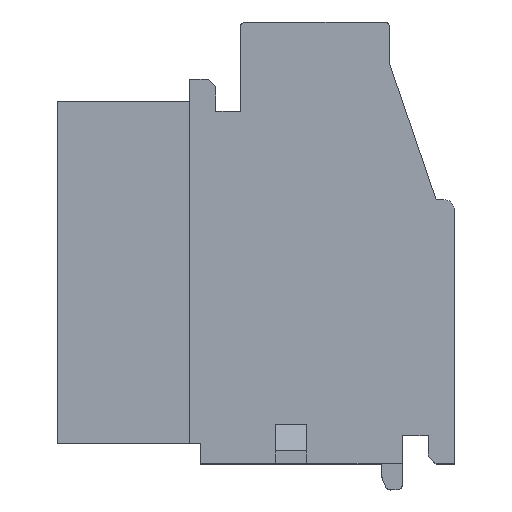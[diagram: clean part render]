
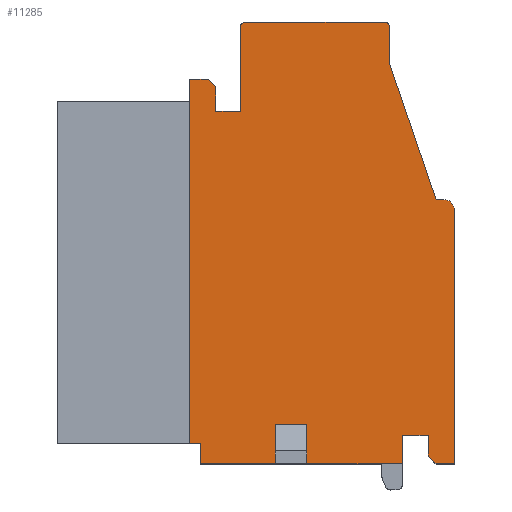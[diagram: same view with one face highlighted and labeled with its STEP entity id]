
A CAD part, top view. The second image highlights one B-rep face of the part: STEP entity #11285.
In plain terms, the highlighted planar face has unit normal (0, 0, 1).
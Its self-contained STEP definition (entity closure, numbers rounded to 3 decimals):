
#2=DIRECTION('',(0.,-1.,0.));
#3=VECTOR('',#2,1.5);
#4=CARTESIAN_POINT('',(4.1,1.5,5.));
#5=LINE('',#4,#3);
#6=DIRECTION('',(1.,0.,0.));
#7=VECTOR('',#6,2.9);
#8=CARTESIAN_POINT('',(0.,0.,5.));
#9=LINE('',#8,#7);
#14=DIRECTION('',(1.,0.,0.));
#15=VECTOR('',#14,3.7);
#16=CARTESIAN_POINT('',(4.1,0.,5.));
#17=LINE('',#16,#15);
#94=DIRECTION('',(0.,1.,0.));
#95=VECTOR('',#94,0.8);
#96=CARTESIAN_POINT('',(8.8,0.3,5.));
#97=LINE('',#96,#95);
#110=DIRECTION('',(0.707,-0.707,0.));
#111=VECTOR('',#110,0.424);
#112=CARTESIAN_POINT('',(8.8,0.3,5.));
#113=LINE('',#112,#111);
#126=DIRECTION('',(1.,0.,0.));
#127=VECTOR('',#126,0.7);
#128=CARTESIAN_POINT('',(9.1,0.,5.));
#129=LINE('',#128,#127);
#134=DIRECTION('',(0.,1.,0.));
#135=VECTOR('',#134,9.8);
#136=CARTESIAN_POINT('',(9.8,0.,5.));
#137=LINE('',#136,#135);
#146=CARTESIAN_POINT('',(9.4,9.8,5.));
#147=DIRECTION('',(0.,0.,1.));
#148=DIRECTION('',(1.,0.001,0.));
#149=AXIS2_PLACEMENT_3D('',#146,#147,#148);
#160=DIRECTION('',(-1.,0.,0.));
#161=VECTOR('',#160,0.3);
#162=CARTESIAN_POINT('',(9.4,10.2,5.));
#163=LINE('',#162,#161);
#172=DIRECTION('',(-0.324,0.946,0.));
#173=VECTOR('',#172,5.55);
#174=CARTESIAN_POINT('',(9.1,10.2,5.));
#175=LINE('',#174,#173);
#184=DIRECTION('',(0.,1.,0.));
#185=VECTOR('',#184,1.4);
#186=CARTESIAN_POINT('',(7.3,15.45,5.));
#187=LINE('',#186,#185);
#196=CARTESIAN_POINT('',(7.3,16.85,5.));
#197=CARTESIAN_POINT('',(7.3,16.902,5.));
#198=CARTESIAN_POINT('',(7.257,17.007,5.));
#199=CARTESIAN_POINT('',(7.152,17.05,5.));
#200=CARTESIAN_POINT('',(7.1,17.05,5.));
#212=DIRECTION('',(-1.,0.,0.));
#213=VECTOR('',#212,5.35);
#214=CARTESIAN_POINT('',(7.1,17.05,5.));
#215=LINE('',#214,#213);
#224=CARTESIAN_POINT('',(1.75,17.05,5.));
#225=CARTESIAN_POINT('',(1.698,17.05,5.));
#226=CARTESIAN_POINT('',(1.593,17.007,5.));
#227=CARTESIAN_POINT('',(1.55,16.902,5.));
#228=CARTESIAN_POINT('',(1.55,16.85,5.));
#240=DIRECTION('',(0.,-1.,0.));
#241=VECTOR('',#240,3.25);
#242=CARTESIAN_POINT('',(1.55,16.85,5.));
#243=LINE('',#242,#241);
#252=DIRECTION('',(-1.,0.,0.));
#253=VECTOR('',#252,0.95);
#254=CARTESIAN_POINT('',(1.55,13.6,5.));
#255=LINE('',#254,#253);
#272=DIRECTION('',(0.,1.,0.));
#273=VECTOR('',#272,0.95);
#274=CARTESIAN_POINT('',(0.6,13.6,5.));
#275=LINE('',#274,#273);
#284=DIRECTION('',(-0.707,0.707,0.));
#285=VECTOR('',#284,0.424);
#286=CARTESIAN_POINT('',(0.6,14.55,5.));
#287=LINE('',#286,#285);
#292=DIRECTION('',(-1.,0.,0.));
#293=VECTOR('',#292,0.7);
#294=CARTESIAN_POINT('',(0.3,14.85,5.));
#295=LINE('',#294,#293);
#308=DIRECTION('',(0.,-1.,0.));
#309=VECTOR('',#308,14.05);
#310=CARTESIAN_POINT('',(-0.4,14.85,5.));
#311=LINE('',#310,#309);
#348=DIRECTION('',(1.,0.,0.));
#349=VECTOR('',#348,0.4);
#350=CARTESIAN_POINT('',(-0.4,0.8,5.));
#351=LINE('',#350,#349);
#384=DIRECTION('',(0.,-1.,0.));
#385=VECTOR('',#384,0.8);
#386=CARTESIAN_POINT('',(0.,0.8,5.));
#387=LINE('',#386,#385);
#865=DIRECTION('',(0.,-1.,0.));
#866=VECTOR('',#865,1.1);
#867=CARTESIAN_POINT('',(7.8,1.1,5.));
#868=LINE('',#867,#866);
#869=DIRECTION('',(-1.,0.,0.));
#870=VECTOR('',#869,1.);
#871=CARTESIAN_POINT('',(8.8,1.1,5.));
#872=LINE('',#871,#870);
#9315=DIRECTION('',(0.,-1.,0.));
#9316=VECTOR('',#9315,1.5);
#9317=CARTESIAN_POINT('',(2.9,1.5,5.));
#9318=LINE('',#9317,#9316);
#9323=DIRECTION('',(1.,0.,0.));
#9324=VECTOR('',#9323,1.2);
#9325=CARTESIAN_POINT('',(2.9,1.5,5.));
#9326=LINE('',#9325,#9324);
#9351=VERTEX_POINT('',#196);
#9352=VERTEX_POINT('',#200);
#9353=CARTESIAN_POINT('',(7.3,15.45,5.));
#9354=VERTEX_POINT('',#9353);
#9355=CARTESIAN_POINT('',(9.1,10.2,5.));
#9356=VERTEX_POINT('',#9355);
#9357=CARTESIAN_POINT('',(9.4,10.2,5.));
#9358=VERTEX_POINT('',#9357);
#9359=CARTESIAN_POINT('',(9.8,9.8,5.));
#9360=VERTEX_POINT('',#9359);
#9361=CARTESIAN_POINT('',(9.8,0.,5.));
#9362=VERTEX_POINT('',#9361);
#9363=CARTESIAN_POINT('',(9.1,0.,5.));
#9364=VERTEX_POINT('',#9363);
#9365=CARTESIAN_POINT('',(8.8,0.3,5.));
#9366=VERTEX_POINT('',#9365);
#9367=CARTESIAN_POINT('',(8.8,1.1,5.));
#9368=VERTEX_POINT('',#9367);
#9369=CARTESIAN_POINT('',(7.8,1.1,5.));
#9370=VERTEX_POINT('',#9369);
#9371=CARTESIAN_POINT('',(7.8,0.,5.));
#9372=VERTEX_POINT('',#9371);
#9373=CARTESIAN_POINT('',(4.1,0.,5.));
#9374=VERTEX_POINT('',#9373);
#9375=CARTESIAN_POINT('',(-0.4,14.85,5.));
#9376=CARTESIAN_POINT('',(-0.4,0.8,5.));
#9377=VERTEX_POINT('',#9375);
#9378=VERTEX_POINT('',#9376);
#9379=CARTESIAN_POINT('',(4.1,1.5,5.));
#9380=VERTEX_POINT('',#9379);
#9381=CARTESIAN_POINT('',(2.9,1.5,5.));
#9382=VERTEX_POINT('',#9381);
#9383=CARTESIAN_POINT('',(2.9,0.,5.));
#9384=VERTEX_POINT('',#9383);
#9385=CARTESIAN_POINT('',(0.,0.,5.));
#9386=VERTEX_POINT('',#9385);
#9387=CARTESIAN_POINT('',(0.,0.8,5.));
#9388=VERTEX_POINT('',#9387);
#9389=CARTESIAN_POINT('',(0.3,14.85,5.));
#9390=VERTEX_POINT('',#9389);
#9391=CARTESIAN_POINT('',(0.6,14.55,5.));
#9392=VERTEX_POINT('',#9391);
#9393=CARTESIAN_POINT('',(0.6,13.6,5.));
#9394=VERTEX_POINT('',#9393);
#9395=CARTESIAN_POINT('',(1.55,13.6,5.));
#9396=VERTEX_POINT('',#9395);
#9397=CARTESIAN_POINT('',(1.55,16.85,5.));
#9398=VERTEX_POINT('',#9397);
#9399=VERTEX_POINT('',#224);
#11226=CARTESIAN_POINT('',(4.7,8.525,5.));
#11227=DIRECTION('',(0.,0.,1.));
#11228=DIRECTION('',(1.,0.,0.));
#11229=AXIS2_PLACEMENT_3D('',#11226,#11227,#11228);
#11230=PLANE('',#11229);
#11232=ORIENTED_EDGE('',*,*,#11231,.F.);
#11234=ORIENTED_EDGE('',*,*,#11233,.F.);
#11236=ORIENTED_EDGE('',*,*,#11235,.T.);
#11238=ORIENTED_EDGE('',*,*,#11237,.F.);
#11240=ORIENTED_EDGE('',*,*,#11239,.F.);
#11242=ORIENTED_EDGE('',*,*,#11241,.F.);
#11244=ORIENTED_EDGE('',*,*,#11243,.F.);
#11246=ORIENTED_EDGE('',*,*,#11245,.F.);
#11248=ORIENTED_EDGE('',*,*,#11247,.F.);
#11250=ORIENTED_EDGE('',*,*,#11249,.F.);
#11252=ORIENTED_EDGE('',*,*,#11251,.F.);
#11254=ORIENTED_EDGE('',*,*,#11253,.F.);
#11256=ORIENTED_EDGE('',*,*,#11255,.F.);
#11258=ORIENTED_EDGE('',*,*,#11257,.F.);
#11260=ORIENTED_EDGE('',*,*,#11259,.F.);
#11262=ORIENTED_EDGE('',*,*,#11261,.F.);
#11264=ORIENTED_EDGE('',*,*,#11263,.F.);
#11266=ORIENTED_EDGE('',*,*,#11265,.F.);
#11268=ORIENTED_EDGE('',*,*,#11267,.F.);
#11270=ORIENTED_EDGE('',*,*,#11269,.F.);
#11272=ORIENTED_EDGE('',*,*,#11271,.F.);
#11274=ORIENTED_EDGE('',*,*,#11273,.F.);
#11276=ORIENTED_EDGE('',*,*,#11275,.T.);
#11278=ORIENTED_EDGE('',*,*,#11277,.T.);
#11280=ORIENTED_EDGE('',*,*,#11279,.T.);
#11282=ORIENTED_EDGE('',*,*,#11281,.F.);
#11283=EDGE_LOOP('',(#11232,#11234,#11236,#11238,#11240,#11242,#11244,#11246,
#11248,#11250,#11252,#11254,#11256,#11258,#11260,#11262,#11264,#11266,#11268,
#11270,#11272,#11274,#11276,#11278,#11280,#11282));
#11284=FACE_OUTER_BOUND('',#11283,.F.);
#150=CIRCLE('',#149,0.4);
#201=B_SPLINE_CURVE_WITH_KNOTS('',3,(#196,#197,#198,#199,#200),.UNSPECIFIED.,
.F.,.F.,(4,1,4),(0.,0.5,1.),.UNSPECIFIED.);
#229=B_SPLINE_CURVE_WITH_KNOTS('',3,(#224,#225,#226,#227,#228),.UNSPECIFIED.,
.F.,.F.,(4,1,4),(0.,0.5,1.),.UNSPECIFIED.);
#11231=EDGE_CURVE('',#9380,#9374,#5,.T.);
#11233=EDGE_CURVE('',#9382,#9380,#9326,.T.);
#11235=EDGE_CURVE('',#9382,#9384,#9318,.T.);
#11237=EDGE_CURVE('',#9386,#9384,#9,.T.);
#11239=EDGE_CURVE('',#9388,#9386,#387,.T.);
#11241=EDGE_CURVE('',#9378,#9388,#351,.T.);
#11243=EDGE_CURVE('',#9377,#9378,#311,.T.);
#11245=EDGE_CURVE('',#9390,#9377,#295,.T.);
#11247=EDGE_CURVE('',#9392,#9390,#287,.T.);
#11249=EDGE_CURVE('',#9394,#9392,#275,.T.);
#11251=EDGE_CURVE('',#9396,#9394,#255,.T.);
#11253=EDGE_CURVE('',#9398,#9396,#243,.T.);
#11255=EDGE_CURVE('',#9399,#9398,#229,.T.);
#11257=EDGE_CURVE('',#9352,#9399,#215,.T.);
#11259=EDGE_CURVE('',#9351,#9352,#201,.T.);
#11261=EDGE_CURVE('',#9354,#9351,#187,.T.);
#11263=EDGE_CURVE('',#9356,#9354,#175,.T.);
#11265=EDGE_CURVE('',#9358,#9356,#163,.T.);
#11267=EDGE_CURVE('',#9360,#9358,#150,.T.);
#11269=EDGE_CURVE('',#9362,#9360,#137,.T.);
#11271=EDGE_CURVE('',#9364,#9362,#129,.T.);
#11273=EDGE_CURVE('',#9366,#9364,#113,.T.);
#11275=EDGE_CURVE('',#9366,#9368,#97,.T.);
#11277=EDGE_CURVE('',#9368,#9370,#872,.T.);
#11279=EDGE_CURVE('',#9370,#9372,#868,.T.);
#11281=EDGE_CURVE('',#9374,#9372,#17,.T.);
#11285=ADVANCED_FACE('',(#11284),#11230,.T.);
